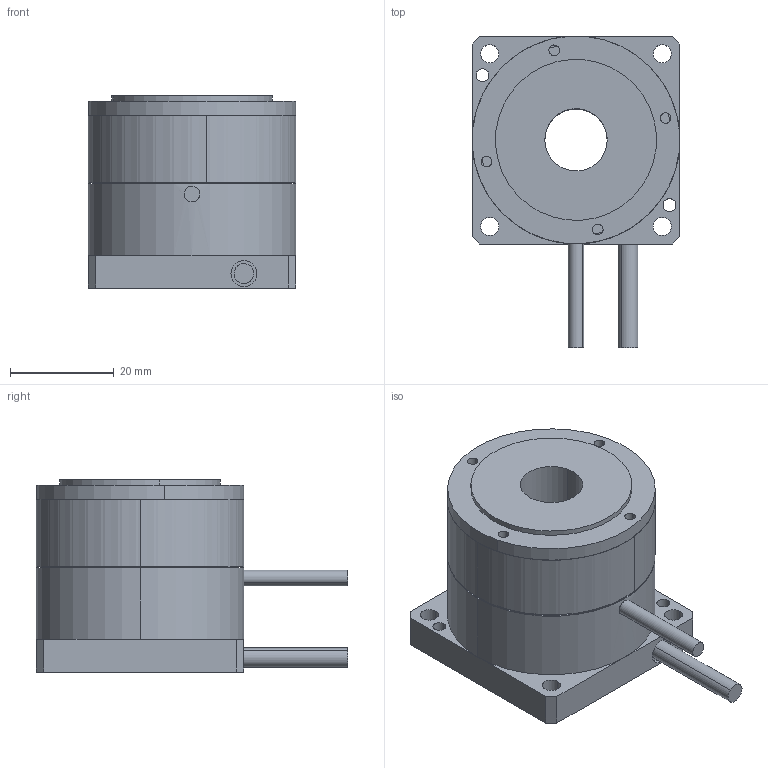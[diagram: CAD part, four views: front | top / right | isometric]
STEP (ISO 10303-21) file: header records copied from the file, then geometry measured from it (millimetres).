
FILE_DESCRIPTION (( 'STEP AP203' ), '1' );
FILE_NAME ('40DD装配体2021.STEP', '2021-01-07T03:27:05', ( '微软用户' ), ( '微软中国' ), 'SwSTEP 2.0', 'SolidWorks 2019', '' );
FILE_SCHEMA (( 'CONFIG_CONTROL_DESIGN' ));
Length unit declared in the file: millimetre
Products named in the file (1): 40DD蚾饜极2021
Bounding box: 40 x 60 x 37 mm (x, y, z)
Surface area: 13310.2 mm2 (no closed solid volume)
Topology: 0 solids, 8 shells, 83 faces, 238 edges, 174 vertices
Faces by surface type: cylinder 52, plane 31
Entity records: 3014 total; most frequent: CARTESIAN_POINT 594, DIRECTION 546, ORIENTED_EDGE 406, EDGE_CURVE 238, AXIS2_PLACEMENT_3D 228, VERTEX_POINT 174, CIRCLE 144, EDGE_LOOP 123
